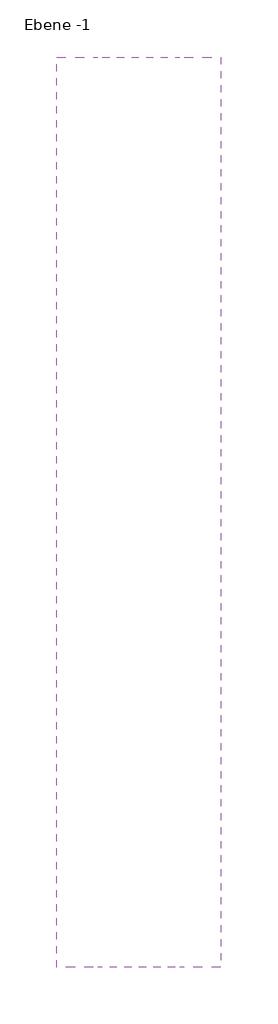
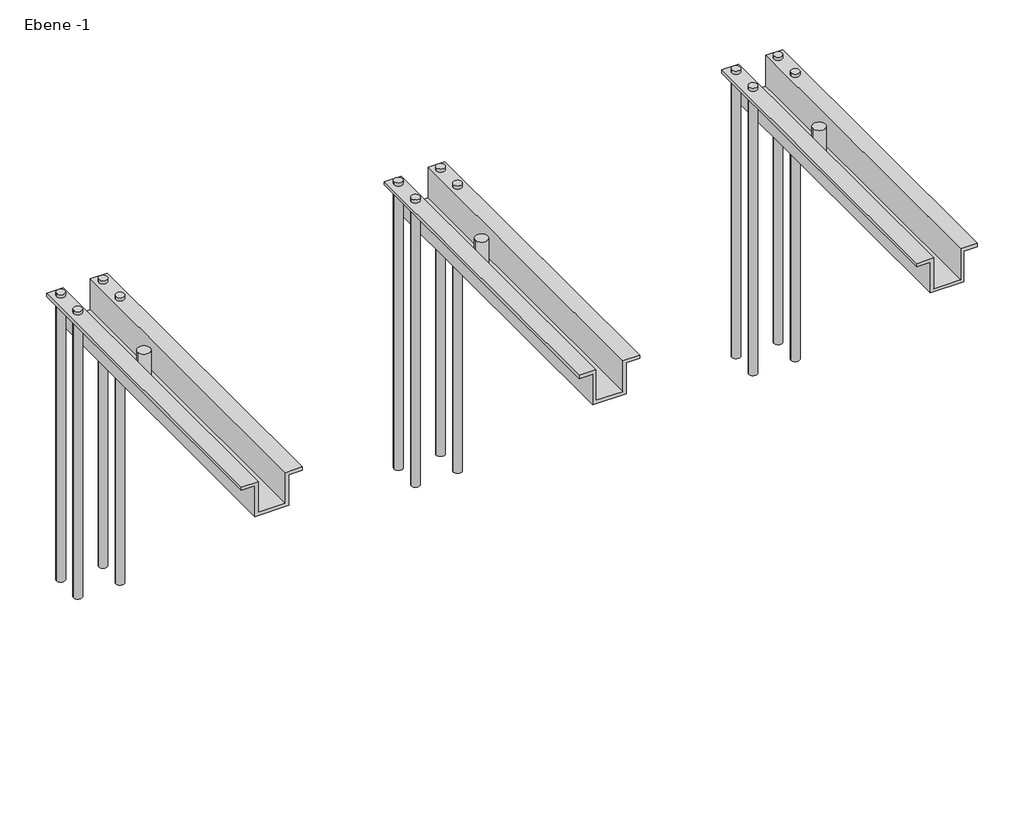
# One storey: 1 fastener.
"""IFC4 building model written with IfcOpenShell, lengths in millimetres."""

from ifc_helpers import new_model, si_unit, origin, place, context, project, spatial, transform, mapped, element, save
from components import jba_8_e973712a

model = new_model("IFC4")

# Units and contexts
model_context = context("Model", 3, world=origin())
ifc_project = project(units=[si_unit("LENGTHUNIT", "METRE", prefix="MILLI")], contexts=[model_context])

# Site, building, storey
site = spatial("IfcSite", under=ifc_project)
building = spatial("IfcBuilding", under=site)
storey = spatial("IfcBuildingStorey", under=building, Name="Ebene -1", Elevation=-3000.0)

# Fastener
placement = place(None, origin())
jba_8_shape = jba_8_e973712a(model_context)
element("IfcFastener", 1, ObjectType="JBA JORDAHL® support corbels_1 : JBA 8", at=placement, inside=storey, context=model_context, shape_type="MappedRepresentation", body=[
    mapped(jba_8_shape, transform((1666.0776885, 6551.4862709, 201.0880347), x_axis=(1.0, 0.0, 0.0), y_axis=(0.0, 0.0, 1.0), z_axis=(0.0, -1.0, 0.0))),
])

save(model, "model.ifc")
